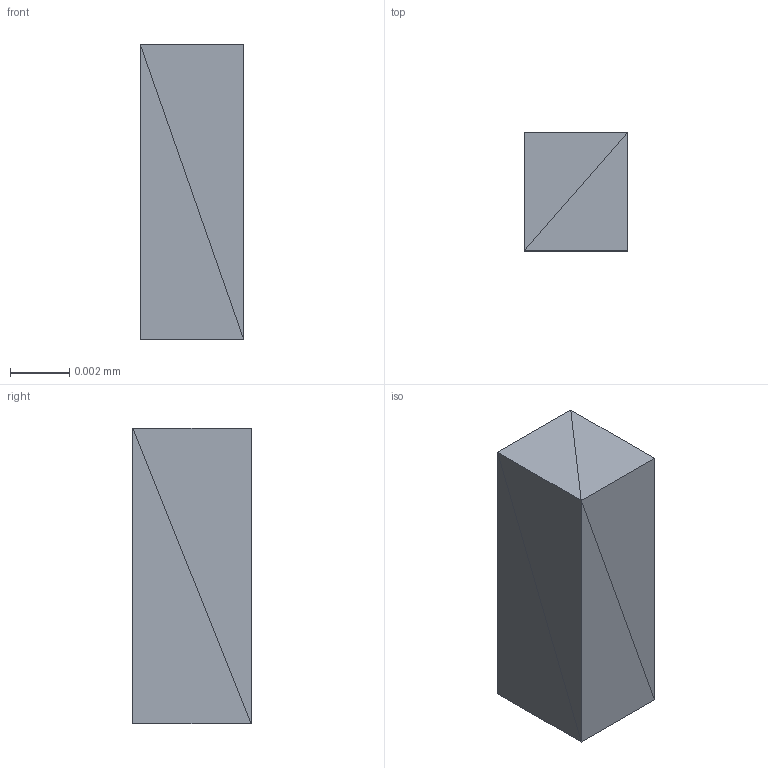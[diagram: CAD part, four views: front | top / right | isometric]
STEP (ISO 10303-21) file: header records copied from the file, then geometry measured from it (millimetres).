
FILE_DESCRIPTION((' Model'),'2;1');
FILE_NAME(' Shape Model','2026-05-29T17:26:13',(''),( ''),' ','','Unknown');
FILE_SCHEMA(('AUTOMOTIVE_DESIGN { 1 0 10303 214 1 1 1 1 }'));
Length unit declared in the file: millimetre
Products named in the file (1):  STEP translator 7.5 1
Bounding box: 0 x 0 x 0.01 mm (x, y, z)
Surface area: 0 mm2 (no closed solid volume)
Topology: 0 solids, 1 shells, 28 faces, 42 edges, 16 vertices
Faces by surface type: plane 28
Entity records: 1072 total; most frequent: CARTESIAN_POINT 213, DIRECTION 142, ORIENTED_EDGE 84, LINE 84, VECTOR 84, PCURVE 84, DEFINITIONAL_REPRESENTATION 84, EDGE_CURVE 42
